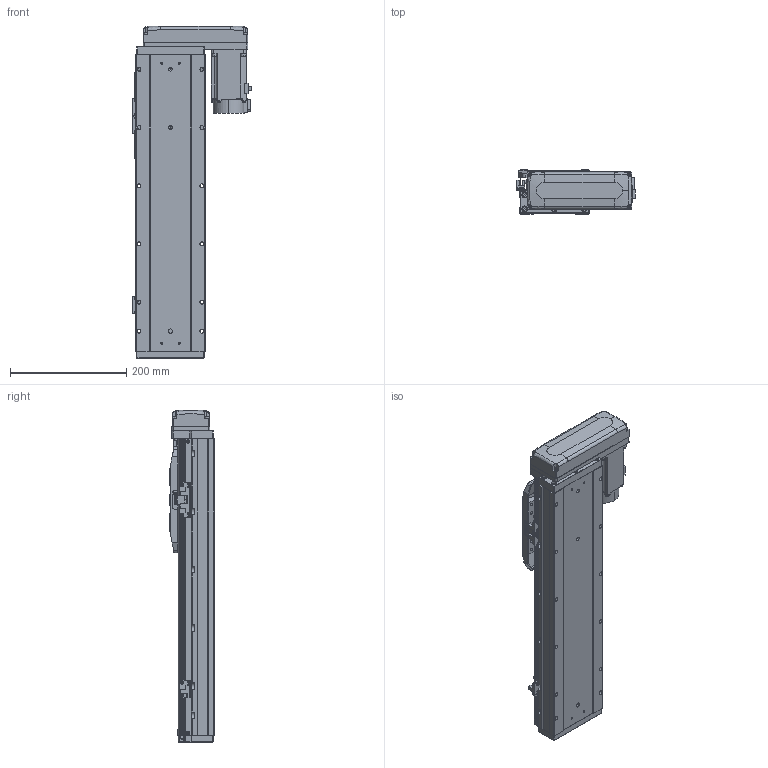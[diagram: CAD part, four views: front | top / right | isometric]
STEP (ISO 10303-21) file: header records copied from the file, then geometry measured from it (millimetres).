
FILE_DESCRIPTION (( 'STEP AP203' ), '1' );
FILE_NAME ('GTH12-300-BL-M40-C4.step', '2025-07-16T03:41:01', ( '' ), ( '' ), 'SwSTEP 2.0', 'SolidWorks 2023', '' );
FILE_SCHEMA (( 'CONFIG_CONTROL_DESIGN' ));
Length unit declared in the file: millimetre
Products named in the file (17): GTH120-027-1_GTH120-027-2; 感应器总成左; 感应器总成右; CTHA86-033_M40B; GTH120-001_300; hg-kn43j_-s100_; GBT 70.1-M5×16; GTH12-300-BL-M40-C4; GTH120-004; GTH120-006; GBT 70.3-M3×8; GTH120-013; GTH80-022; GTH80-028; GTH120-003; BTH-M3X5X6; GBT 70.1-M3×6
Assembly tree (38 placements, depth 2):
  GTH12-300-BL-M40-C4
    GTH120-001_300
    GTH120-003
    GTH120-006
    GTH120-004
    GTH120-013
    GBT 70.1-M3×6  x2
    GBT 70.1-M5×16  x10
    GBT 70.3-M3×8  x4
    GTH80-022
    GTH80-028  x2
    BTH-M3X5X6  x8
    hg-kn43j_-s100_
    CTHA86-033_M40B
    GTH120-027-1_GTH120-027-2
    感应器总成右  x2
    感应器总成左
Bounding box: 203.5 x 76 x 570.5 mm (x, y, z)
Volume: 4571385 mm3; surface area: 487898.4 mm2
Topology: 55 solids, 55 shells, 2336 faces, 5467 edges, 3367 vertices
Faces by surface type: plane 1204, cylinder 664, cone 292, torus 162, sphere 8, bspline 6
Entity records: 50633 total; most frequent: CARTESIAN_POINT 8668, DIRECTION 8550, ORIENTED_EDGE 7926, EDGE_CURVE 3963, AXIS2_PLACEMENT_3D 2982, VECTOR 2586, LINE 2586, VERTEX_POINT 2500
